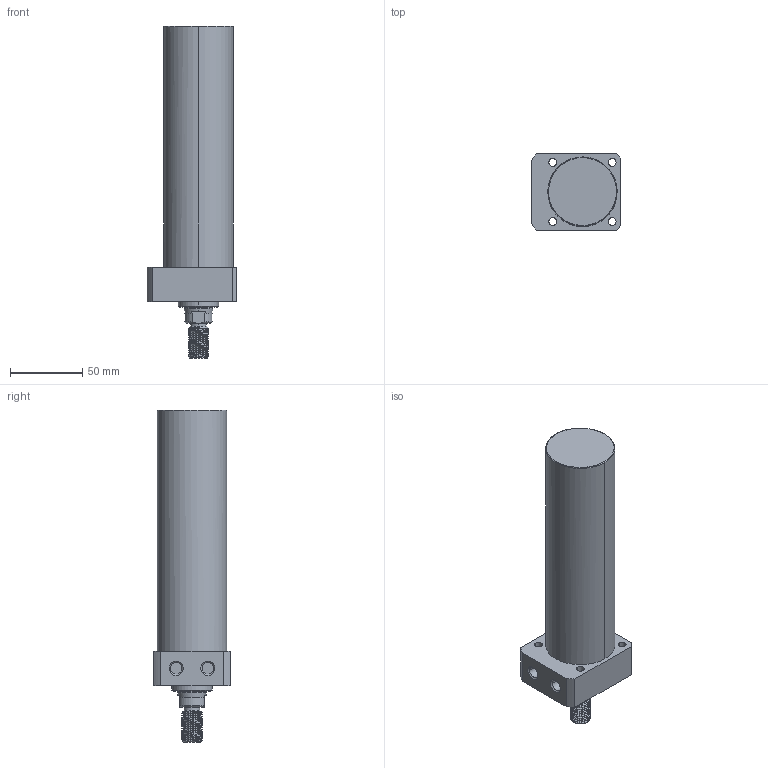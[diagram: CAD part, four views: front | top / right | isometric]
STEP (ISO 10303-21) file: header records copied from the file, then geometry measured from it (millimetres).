
FILE_DESCRIPTION((' '),'2;1');
FILE_NAME( 'TLLR-048CT-140.STEP.stp', '2025-10-24T16:34:38', (' '), ('--- Datakit www.datakit.com---'), ' Datakit CrossCadWare V2024.1 Dec 21 2023', 'Mastercam 2025', ' ');
FILE_SCHEMA(('AUTOMOTIVE_DESIGN { 1 0 10303 214 1 1 1 1 }'));
Length unit declared in the file: millimetre
Products named in the file (1): TLLR-048CT-140
Bounding box: 62 x 53 x 230 mm (x, y, z)
Volume: 385181.8 mm3; surface area: 41800.6 mm2
Topology: 1 solids, 1 shells, 96 faces, 329 edges, 243 vertices
Faces by surface type: cylinder 56, plane 20, cone 16, torus 2, bspline 2
Entity records: 10076 total; most frequent: CARTESIAN_POINT 7180, ORIENTED_EDGE 658, DIRECTION 499, EDGE_CURVE 329, VERTEX_POINT 243, AXIS2_PLACEMENT_3D 204, B_SPLINE_CURVE_WITH_KNOTS 129, EDGE_LOOP 112
